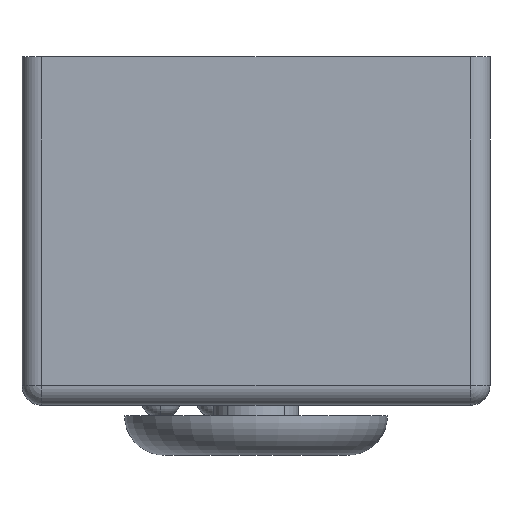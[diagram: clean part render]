
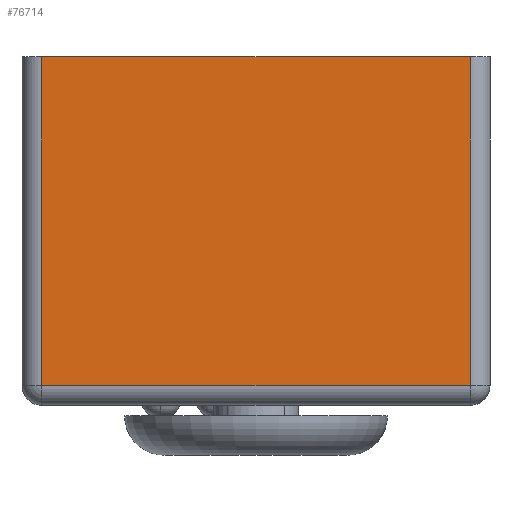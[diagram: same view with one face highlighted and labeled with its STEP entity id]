
A CAD part, front view. The second image highlights one B-rep face of the part: STEP entity #76714.
In plain terms, the highlighted planar face has unit normal (0, -1, 0).
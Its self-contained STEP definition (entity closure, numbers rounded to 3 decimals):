
#274 = LINE ( 'NONE', #2196, #2411 ) ;
#654 = VECTOR ( 'NONE', #30570, 1000. ) ;
#1213 = PLANE ( 'NONE',  #80599 ) ;
#1586 = CARTESIAN_POINT ( 'NONE',  ( 16.3, -31.8, 1.5 ) ) ;
#2196 = CARTESIAN_POINT ( 'NONE',  ( -16.3, -31.8, 1.5 ) ) ;
#2411 = VECTOR ( 'NONE', #49707, 1000. ) ;
#2651 = EDGE_CURVE ( 'NONE', #27224, #58935, #2780, .T. ) ;
#2780 = LINE ( 'NONE', #78046, #654 ) ;
#4875 = EDGE_LOOP ( 'NONE', ( #81310, #43240, #52630, #79239 ) ) ;
#8050 = DIRECTION ( 'NONE',  ( 0., 0., 1. ) ) ;
#10112 = VERTEX_POINT ( 'NONE', #18991 ) ;
#16816 = VECTOR ( 'NONE', #34253, 1000. ) ;
#18991 = CARTESIAN_POINT ( 'NONE',  ( -16.3, -31.8, 26.5 ) ) ;
#22397 = VERTEX_POINT ( 'NONE', #51430 ) ;
#27224 = VERTEX_POINT ( 'NONE', #67850 ) ;
#30570 = DIRECTION ( 'NONE',  ( 1., 0., 0. ) ) ;
#34253 = DIRECTION ( 'NONE',  ( 1., 0., 0. ) ) ;
#35066 = CARTESIAN_POINT ( 'NONE',  ( -17.8, -31.8, 1.5 ) ) ;
#37050 = LINE ( 'NONE', #81730, #16816 ) ;
#43240 = ORIENTED_EDGE ( 'NONE', *, *, #70865, .T. ) ;
#48438 = DIRECTION ( 'NONE',  ( 0., 1., 0. ) ) ;
#49707 = DIRECTION ( 'NONE',  ( 0., 0., -1. ) ) ;
#51430 = CARTESIAN_POINT ( 'NONE',  ( 16.3, -31.8, 26.5 ) ) ;
#51972 = EDGE_CURVE ( 'NONE', #10112, #27224, #274, .T. ) ;
#52630 = ORIENTED_EDGE ( 'NONE', *, *, #59137, .F. ) ;
#54666 = VECTOR ( 'NONE', #83209, 1000. ) ;
#58935 = VERTEX_POINT ( 'NONE', #65844 ) ;
#59137 = EDGE_CURVE ( 'NONE', #10112, #22397, #37050, .T. ) ;
#65844 = CARTESIAN_POINT ( 'NONE',  ( 16.3, -31.8, 1.5 ) ) ;
#67850 = CARTESIAN_POINT ( 'NONE',  ( -16.3, -31.8, 1.5 ) ) ;
#70865 = EDGE_CURVE ( 'NONE', #58935, #22397, #72726, .T. ) ;
#72726 = LINE ( 'NONE', #1586, #54666 ) ;
#76714 = ADVANCED_FACE ( 'NONE', ( #78391 ), #1213, .F. ) ;
#78046 = CARTESIAN_POINT ( 'NONE',  ( -17.8, -31.8, 1.5 ) ) ;
#78391 = FACE_OUTER_BOUND ( 'NONE', #4875, .T. ) ;
#79239 = ORIENTED_EDGE ( 'NONE', *, *, #51972, .T. ) ;
#80599 = AXIS2_PLACEMENT_3D ( 'NONE', #35066, #48438, #8050 ) ;
#81310 = ORIENTED_EDGE ( 'NONE', *, *, #2651, .T. ) ;
#81730 = CARTESIAN_POINT ( 'NONE',  ( -17.8, -31.8, 26.5 ) ) ;
#83209 = DIRECTION ( 'NONE',  ( 0., 0., 1. ) ) ;
